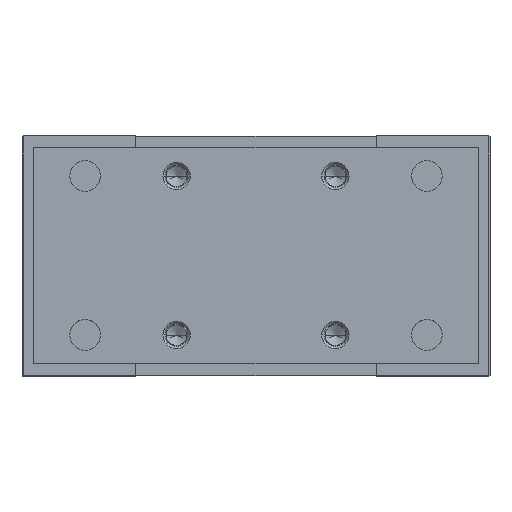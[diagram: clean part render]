
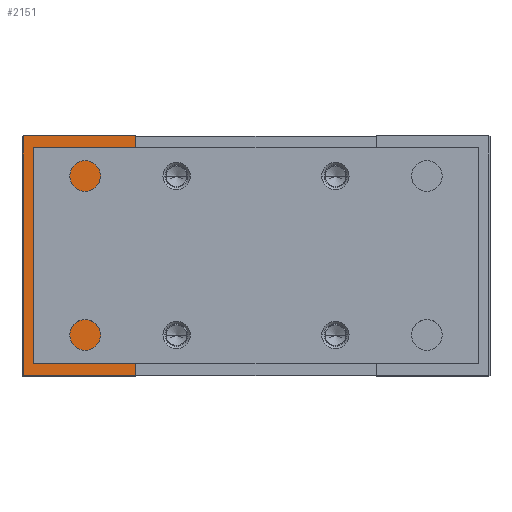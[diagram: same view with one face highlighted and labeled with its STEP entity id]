
A CAD part, top view. The second image highlights one B-rep face of the part: STEP entity #2151.
In plain terms, the highlighted planar face has unit normal (0, 0, 1).
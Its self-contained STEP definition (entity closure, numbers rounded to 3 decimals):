
#144 = EDGE_CURVE ( 'NONE', #9690, #2217, #9287, .T. ) ;
#483 = AXIS2_PLACEMENT_3D ( 'NONE', #2552, #5021, #2496 ) ;
#556 = EDGE_LOOP ( 'NONE', ( #5578, #8758 ) ) ;
#582 = CARTESIAN_POINT ( 'NONE',  ( -62., 0., 71. ) ) ;
#611 = AXIS2_PLACEMENT_3D ( 'NONE', #1488, #5707, #2521 ) ;
#648 = EDGE_CURVE ( 'NONE', #9690, #6492, #5313, .T. ) ;
#716 = FACE_OUTER_BOUND ( 'NONE', #974, .T. ) ;
#827 = PLANE ( 'NONE',  #611 ) ;
#974 = EDGE_LOOP ( 'NONE', ( #7930, #8749, #7676, #2664 ) ) ;
#1105 = DIRECTION ( 'NONE',  ( 0., -1., 0. ) ) ;
#1144 = EDGE_CURVE ( 'NONE', #2217, #10015, #9378, .T. ) ;
#1304 = DIRECTION ( 'NONE',  ( 0., 0., 1. ) ) ;
#1488 = CARTESIAN_POINT ( 'NONE',  ( -68.5, 35., 71. ) ) ;
#1757 = CARTESIAN_POINT ( 'NONE',  ( -35.25, 35., 71. ) ) ;
#2151 = ADVANCED_FACE ( 'NONE', ( #716, #3181 ), #827, .F. ) ;
#2217 = VERTEX_POINT ( 'NONE', #5050 ) ;
#2496 = DIRECTION ( 'NONE',  ( 1., 0., 0. ) ) ;
#2521 = DIRECTION ( 'NONE',  ( 0., -1., 0. ) ) ;
#2552 = CARTESIAN_POINT ( 'NONE',  ( -52., 0., 71. ) ) ;
#2595 = CARTESIAN_POINT ( 'NONE',  ( -68.5, 35., 71. ) ) ;
#2664 = ORIENTED_EDGE ( 'NONE', *, *, #1144, .F. ) ;
#3181 = FACE_BOUND ( 'NONE', #556, .T. ) ;
#3435 = DIRECTION ( 'NONE',  ( 1., 0., 0. ) ) ;
#3726 = CARTESIAN_POINT ( 'NONE',  ( -68.2, 70., 71. ) ) ;
#4135 = CARTESIAN_POINT ( 'NONE',  ( -42., 0., 71. ) ) ;
#4352 = CARTESIAN_POINT ( 'NONE',  ( -68.2, -35., 71. ) ) ;
#4703 = VERTEX_POINT ( 'NONE', #582 ) ;
#5021 = DIRECTION ( 'NONE',  ( 0., 0., 1. ) ) ;
#5050 = CARTESIAN_POINT ( 'NONE',  ( -35.25, 35., 71. ) ) ;
#5258 = CIRCLE ( 'NONE', #10548, 10. ) ;
#5313 = LINE ( 'NONE', #3726, #10588 ) ;
#5316 = VECTOR ( 'NONE', #6757, 1000. ) ;
#5578 = ORIENTED_EDGE ( 'NONE', *, *, #6233, .F. ) ;
#5707 = DIRECTION ( 'NONE',  ( 0., 0., -1. ) ) ;
#5734 = LINE ( 'NONE', #5784, #10231 ) ;
#5784 = CARTESIAN_POINT ( 'NONE',  ( -68.5, -35., 71. ) ) ;
#5922 = DIRECTION ( 'NONE',  ( 0., -1., 0. ) ) ;
#6233 = EDGE_CURVE ( 'NONE', #4703, #6388, #5258, .T. ) ;
#6388 = VERTEX_POINT ( 'NONE', #4135 ) ;
#6492 = VERTEX_POINT ( 'NONE', #4352 ) ;
#6757 = DIRECTION ( 'NONE',  ( 1., 0., 0. ) ) ;
#7676 = ORIENTED_EDGE ( 'NONE', *, *, #10179, .T. ) ;
#7930 = ORIENTED_EDGE ( 'NONE', *, *, #144, .F. ) ;
#8548 = CIRCLE ( 'NONE', #483, 10. ) ;
#8749 = ORIENTED_EDGE ( 'NONE', *, *, #648, .T. ) ;
#8758 = ORIENTED_EDGE ( 'NONE', *, *, #8805, .F. ) ;
#8805 = EDGE_CURVE ( 'NONE', #6388, #4703, #8548, .T. ) ;
#8916 = DIRECTION ( 'NONE',  ( 1., 0., 0. ) ) ;
#9287 = LINE ( 'NONE', #2595, #5316 ) ;
#9378 = LINE ( 'NONE', #1757, #9549 ) ;
#9486 = CARTESIAN_POINT ( 'NONE',  ( -68.2, 35., 71. ) ) ;
#9549 = VECTOR ( 'NONE', #5922, 1000. ) ;
#9690 = VERTEX_POINT ( 'NONE', #9486 ) ;
#9797 = CARTESIAN_POINT ( 'NONE',  ( -35.25, -35., 71. ) ) ;
#10015 = VERTEX_POINT ( 'NONE', #9797 ) ;
#10179 = EDGE_CURVE ( 'NONE', #6492, #10015, #5734, .T. ) ;
#10231 = VECTOR ( 'NONE', #3435, 1000. ) ;
#10507 = CARTESIAN_POINT ( 'NONE',  ( -52., 0., 71. ) ) ;
#10548 = AXIS2_PLACEMENT_3D ( 'NONE', #10507, #1304, #8916 ) ;
#10588 = VECTOR ( 'NONE', #1105, 1000. ) ;
